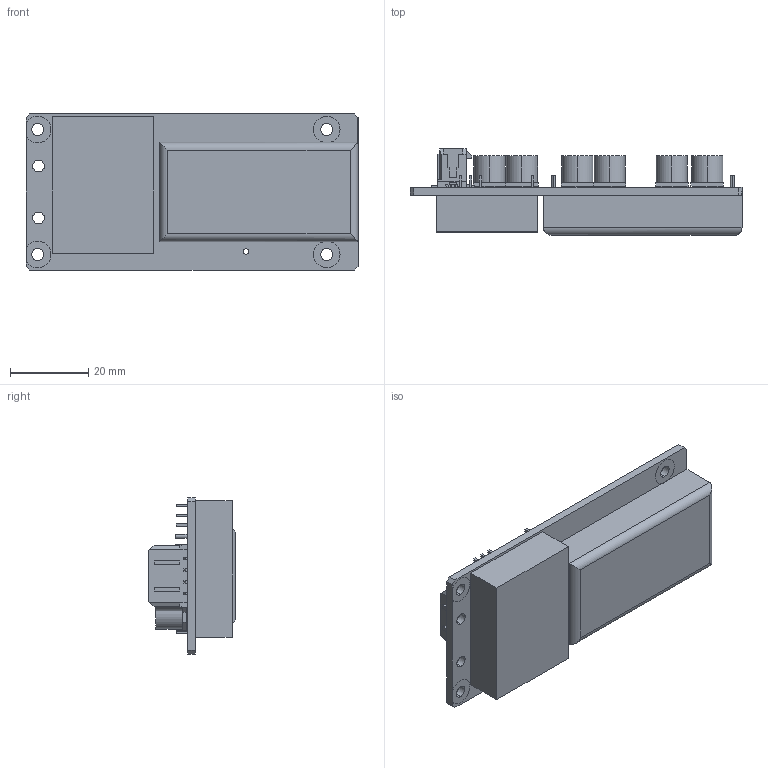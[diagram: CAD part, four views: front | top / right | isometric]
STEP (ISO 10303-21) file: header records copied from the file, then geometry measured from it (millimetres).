
FILE_DESCRIPTION (( 'STEP AP203' ), '1' );
FILE_NAME ('GIL-74103V.STEP', '2016-11-02T17:05:20', ( 'gregory' ), ( '' ), 'SwSTEP 2.0', 'SolidWorks 2011', '' );
FILE_SCHEMA (( 'CONFIG_CONTROL_DESIGN' ));
Length unit declared in the file: millimetre
Products named in the file (1): GIL-74103V
Bounding box: 85 x 22.16 x 40 mm (x, y, z)
Volume: 31392.6 mm3; surface area: 16390.5 mm2
Topology: 9 solids, 9 shells, 774 faces, 1920 edges, 1230 vertices
Faces by surface type: plane 647, cylinder 121, bspline 6
Entity records: 22999 total; most frequent: CARTESIAN_POINT 4343, ORIENTED_EDGE 3840, DIRECTION 3676, EDGE_CURVE 1920, LINE 1670, VECTOR 1670, VERTEX_POINT 1230, AXIS2_PLACEMENT_3D 1003
